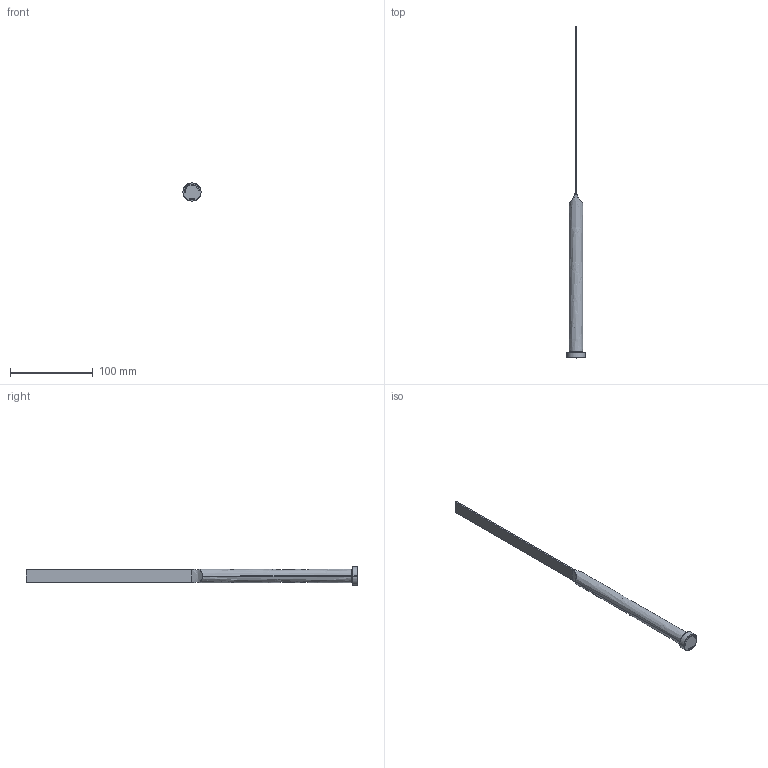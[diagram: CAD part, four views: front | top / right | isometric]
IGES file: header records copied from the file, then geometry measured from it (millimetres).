
Start section: SolidWorks IGES file using analytic representation for surfaces
Global section: file name: D:\Cleonir_particular\Matripeças\Lâmina Extratoras\LE2,015,5400.IGS; native system: SolidWorks 2013; preprocessor: SolidWorks 2013; author: Cleonir; date: 130305.144702; units: millimetre
Bounding box: 22 x 400 x 22 mm (x, y, z)
Surface area: 17718.8 mm2 (no closed solid volume)
Topology: 0 solids, 0 shells, 324 faces, 3031 edges, 3031 vertices
Faces by surface type: bspline 305, revolution 19
